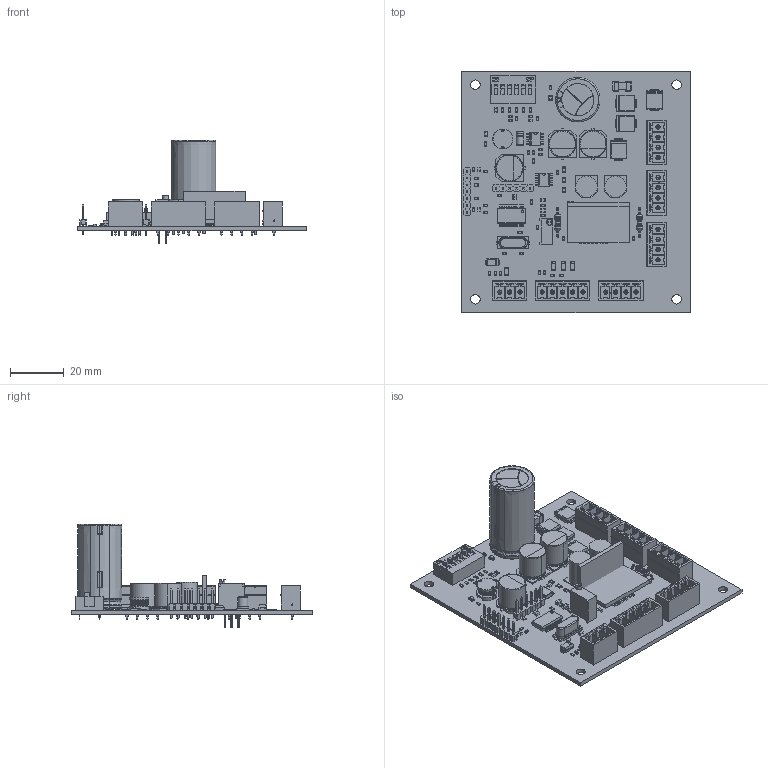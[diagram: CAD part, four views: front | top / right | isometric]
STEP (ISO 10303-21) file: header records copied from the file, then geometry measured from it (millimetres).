
FILE_DESCRIPTION(('Open CASCADE Model'),'2;1');
FILE_NAME('Open CASCADE Shape Model','2015-03-12T11:37:33',('Author'),( 'Open CASCADE'),'Open CASCADE STEP processor 6.2','Open CASCADE 6.2' ,'Unknown');
FILE_SCHEMA(('AUTOMOTIVE_DESIGN { 1 0 10303 214 1 1 1 1 }'));
Length unit declared in the file: millimetre
Products named in the file (169): PCB; Board; Z1; SW3dPS-DO-214AC_SMA; X1; HC49_SMD-A-42; U4; TSSOP28-4_4; SW3dPS-TSSOP-28_P065_Free-Models2; SW3dPS-TSSOP-28_P065_PINTSSOP-57; SW3dPS-TSSOP-28_P065_Board3; SW3dPS-TSSOP-28_P065_Free-Models3; SW3dPS-TSSOP-28_P065_353885137; SW3dPS-TSSOP-28_P065_Extruded3; SW3dPS-TSSOP-28_P065_455332561; SW3dPS-TSSOP-28_P065_Extruded2; SW3dPS-TSSOP-28_P065_455099953; SW3dPS-TSSOP-28_P065_Cylinder1; SW3dPS-TSSOP-28_P065_Board2; U3; SO8; U2; SSOP-28; U1; SW1; DIP-SW-6; R54; RESC0603X60N; R53; R52; R51; R50; R49; R47; R45; R44; R43; R42; R41; R40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
Assembly tree (275 placements, depth 8):
  PCB
    Board
    Z1
      SW3dPS-DO-214AC_SMA
    X1
      HC49_SMD-A-42
    U4
      TSSOP28-4_4
        SW3dPS-TSSOP-28_P065_Free-Models2
          SW3dPS-TSSOP-28_P065_PINTSSOP-57  x28
            SW3dPS-TSSOP-28_P065_Board3
            SW3dPS-TSSOP-28_P065_Free-Models3
              SW3dPS-TSSOP-28_P065_353885137
                SW3dPS-TSSOP-28_P065_Extruded3
          SW3dPS-TSSOP-28_P065_455332561
            SW3dPS-TSSOP-28_P065_Extruded2
          SW3dPS-TSSOP-28_P065_455099953
            SW3dPS-TSSOP-28_P065_Cylinder1
        SW3dPS-TSSOP-28_P065_Board2
    U3
      SO8
    U2
      SSOP-28
    U1
      SO8
    SW1
      DIP-SW-6
    R54
      RESC0603X60N
    R53
      RESC0603X60N
    R52
      RESC0603X60N
    R51
      RESC0603X60N
    R50
      RESC0603X60N
    R49
      RESC0603X60N
    R47
      RESC0603X60N
    R45
      RESC0603X60N
    R44
      RESC0603X60N
    R43
      RESC0603X60N
    R42
      RESC0603X60N
    R41
      RESC0603X60N
    R40
      RES-400
    R39
      RES-400
    R38
      RESC0603X60N
    R37
      RESC0603X60N
    R36
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Bounding box: 85 x 90 x 38.56 mm (x, y, z)
Volume: 22913.4 mm3; surface area: 35796.2 mm2
Topology: 244 solids, 395 shells, 8356 faces, 21337 edges, 13912 vertices
Faces by surface type: plane 6580, cylinder 917, bspline 667, sphere 76, torus 68, cone 48
Full cylindrical faces by diameter (mm): 0.8 x3, 0.9 x16, 1 x15, 1.2 x24, 3.5 x6, 8 x2
Entity records: 278840 total; most frequent: CARTESIAN_POINT 92757, DIRECTION 26290, ORIENTED_EDGE 16734, PCURVE 16734, DEFINITIONAL_REPRESENTATION 16734, LINE 16708, VECTOR 16708, EDGE_CURVE 8503
